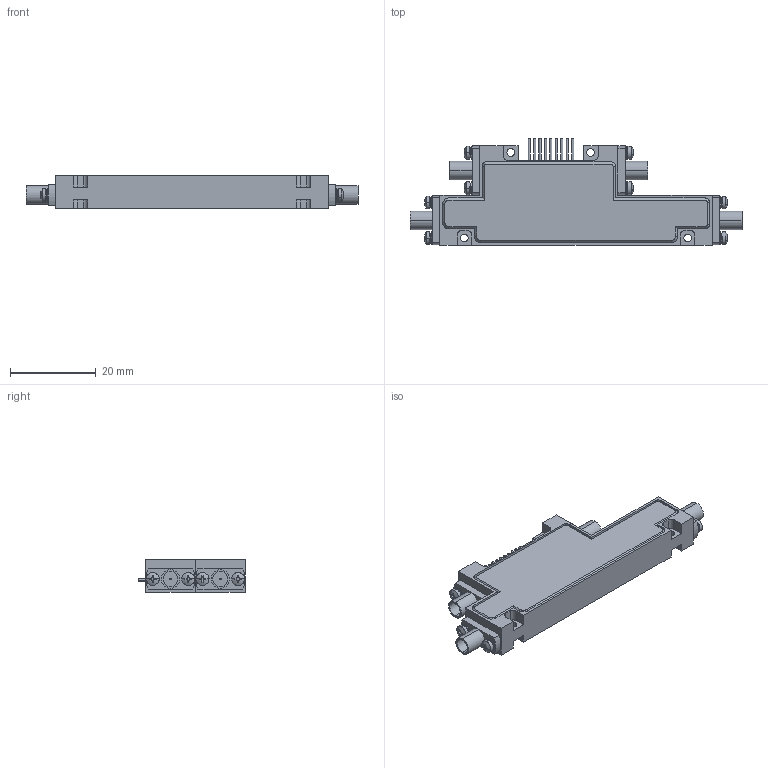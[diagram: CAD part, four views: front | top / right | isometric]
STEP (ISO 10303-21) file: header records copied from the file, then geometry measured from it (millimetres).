
FILE_DESCRIPTION (( 'STEP AP203' ), '1' );
FILE_NAME ('蚾饜极1.STEP', '2026-09-01T05:44:29', ( 'Windows User' ), ( 'P R C' ), 'SwSTEP 2.0', 'SolidWorks 2013', '' );
FILE_SCHEMA (( 'CONFIG_CONTROL_DESIGN' ));
Length unit declared in the file: millimetre
Products named in the file (7): 蚾饜极1; LP9-1.27-2013; 裔啣; 狟曹け-褲极; 郪磁蹟隊M1.6X4; SMP-JFD2; NY251638
Assembly tree (19 placements, depth 2):
  蚾饜极1
    狟曹け-褲极
    裔啣
    LP9-1.27-2013
    NY251638  x4
    SMP-JFD2  x4
    郪磁蹟隊M1.6X4  x8
Bounding box: 77.6 x 24.9 x 7.7 mm (x, y, z)
Volume: 8456.9 mm3; surface area: 7983.1 mm2
Topology: 35 solids, 35 shells, 1112 faces, 2794 edges, 1802 vertices
Faces by surface type: cylinder 641, plane 328, torus 64, bspline 40, cone 39
Entity records: 15463 total; most frequent: CARTESIAN_POINT 4682, DIRECTION 2096, ORIENTED_EDGE 1968, EDGE_CURVE 984, AXIS2_PLACEMENT_3D 798, VERTEX_POINT 641, LINE 500, VECTOR 500
